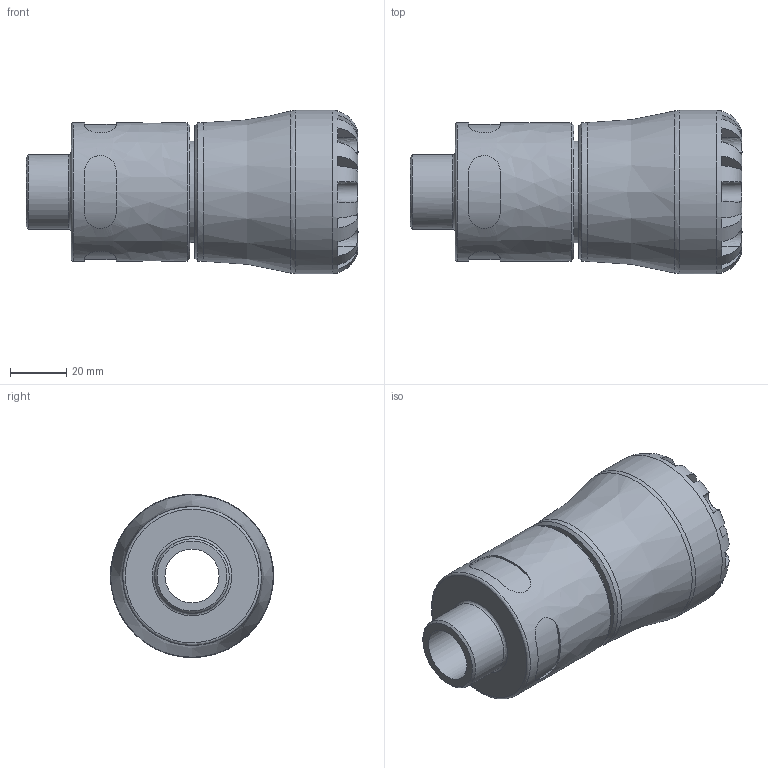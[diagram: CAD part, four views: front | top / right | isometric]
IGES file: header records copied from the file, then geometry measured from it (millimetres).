
Global section: file name: 10N200032007_10N2G0032007; native system: Autodesk Inventor 2019; preprocessor: unknown; author: KIM; date: 20240312.131920; units: millimetre
Bounding box: 118 x 58 x 58 mm (x, y, z)
Volume: 156770.7 mm3; surface area: 33729.1 mm2
Topology: 1 solids, 1 shells, 106 faces, 279 edges, 182 vertices
Faces by surface type: bspline 106
